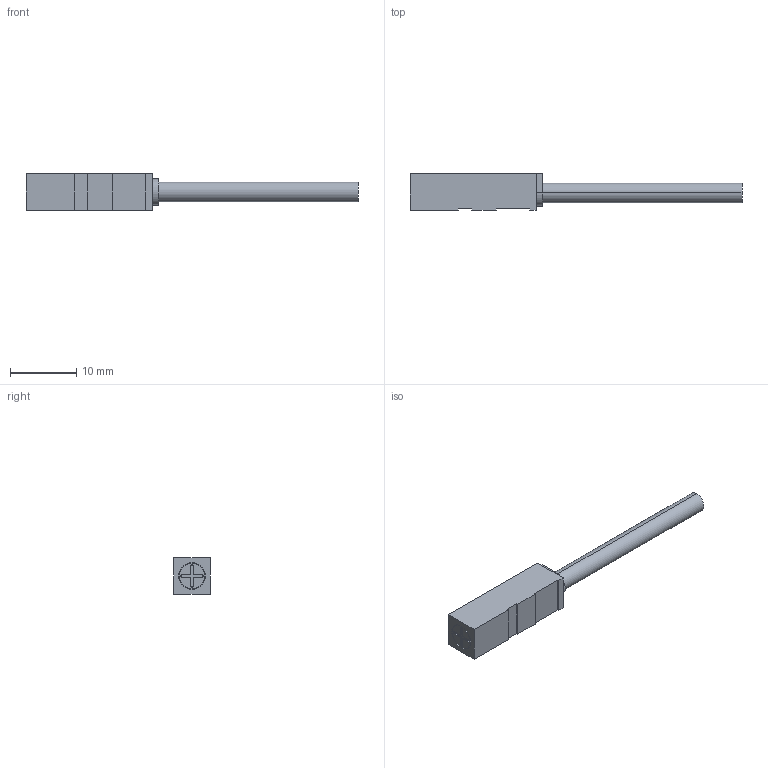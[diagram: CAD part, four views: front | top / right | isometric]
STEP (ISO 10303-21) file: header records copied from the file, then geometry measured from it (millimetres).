
FILE_DESCRIPTION (( 'STEP AP203' ), '1' );
FILE_NAME ('SP05H.STEP', '2023-12-22T01:24:23', ( '' ), ( '' ), 'SwSTEP 2.0', 'SolidWorks 2023', '' );
FILE_SCHEMA (( 'CONFIG_CONTROL_DESIGN' ));
Length unit declared in the file: millimetre
Products named in the file (1): SP05H
Bounding box: 50 x 5.5 x 5.5 mm (x, y, z)
Volume: 796.2 mm3; surface area: 786.4 mm2
Topology: 1 solids, 1 shells, 41 faces, 105 edges, 70 vertices
Faces by surface type: plane 29, cylinder 12
Entity records: 1320 total; most frequent: CARTESIAN_POINT 217, DIRECTION 213, ORIENTED_EDGE 210, EDGE_CURVE 105, LINE 81, VECTOR 81, VERTEX_POINT 70, AXIS2_PLACEMENT_3D 66
